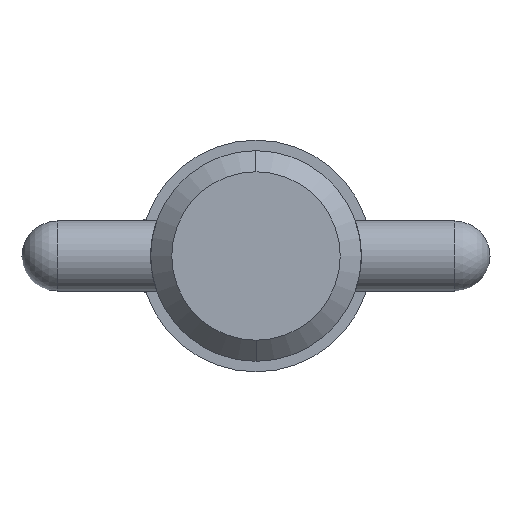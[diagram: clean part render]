
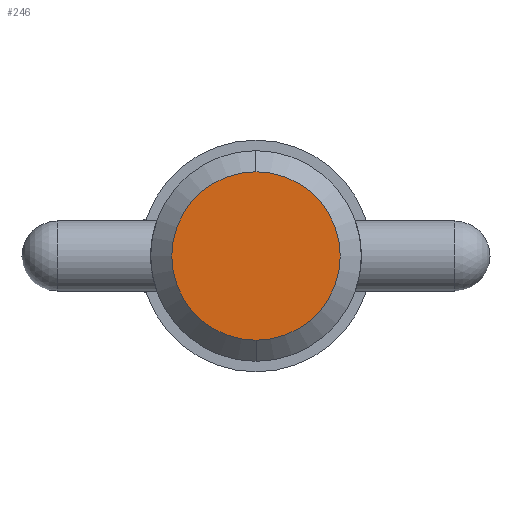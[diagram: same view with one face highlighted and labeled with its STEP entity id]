
A CAD part, left-side view. The second image highlights one B-rep face of the part: STEP entity #246.
In plain terms, the highlighted planar face has unit normal (-1, 0, 0).
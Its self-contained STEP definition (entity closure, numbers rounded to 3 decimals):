
#37 = CARTESIAN_POINT ( 'NONE',  ( 0., 0., 0. ) ) ;
#47 = FACE_OUTER_BOUND ( 'NONE', #159, .T. ) ;
#57 = AXIS2_PLACEMENT_3D ( 'NONE', #37, #674, #598 ) ;
#110 = PLANE ( 'NONE',  #708 ) ;
#155 = CIRCLE ( 'NONE', #249, 5.716 ) ;
#159 = EDGE_LOOP ( 'NONE', ( #270, #966 ) ) ;
#192 = DIRECTION ( 'NONE',  ( 0., 0., -1. ) ) ;
#246 = ADVANCED_FACE ( 'NONE', ( #47 ), #110, .T. ) ;
#249 = AXIS2_PLACEMENT_3D ( 'NONE', #256, #818, #192 ) ;
#256 = CARTESIAN_POINT ( 'NONE',  ( 0., 0., 0. ) ) ;
#270 = ORIENTED_EDGE ( 'NONE', *, *, #800, .F. ) ;
#517 = CARTESIAN_POINT ( 'NONE',  ( 0., 0., -5.716 ) ) ;
#580 = CIRCLE ( 'NONE', #57, 5.716 ) ;
#598 = DIRECTION ( 'NONE',  ( 0., 0., -1. ) ) ;
#668 = CARTESIAN_POINT ( 'NONE',  ( 0., 0., 5.716 ) ) ;
#674 = DIRECTION ( 'NONE',  ( 1., 0., 0. ) ) ;
#708 = AXIS2_PLACEMENT_3D ( 'NONE', #751, #933, #841 ) ;
#751 = CARTESIAN_POINT ( 'NONE',  ( 0., 0., 0. ) ) ;
#800 = EDGE_CURVE ( 'NONE', #835, #853, #580, .T. ) ;
#818 = DIRECTION ( 'NONE',  ( 1., 0., 0. ) ) ;
#835 = VERTEX_POINT ( 'NONE', #517 ) ;
#841 = DIRECTION ( 'NONE',  ( 0., 0., 1. ) ) ;
#853 = VERTEX_POINT ( 'NONE', #668 ) ;
#857 = EDGE_CURVE ( 'NONE', #853, #835, #155, .T. ) ;
#933 = DIRECTION ( 'NONE',  ( -1., 0., 0. ) ) ;
#966 = ORIENTED_EDGE ( 'NONE', *, *, #857, .F. ) ;
